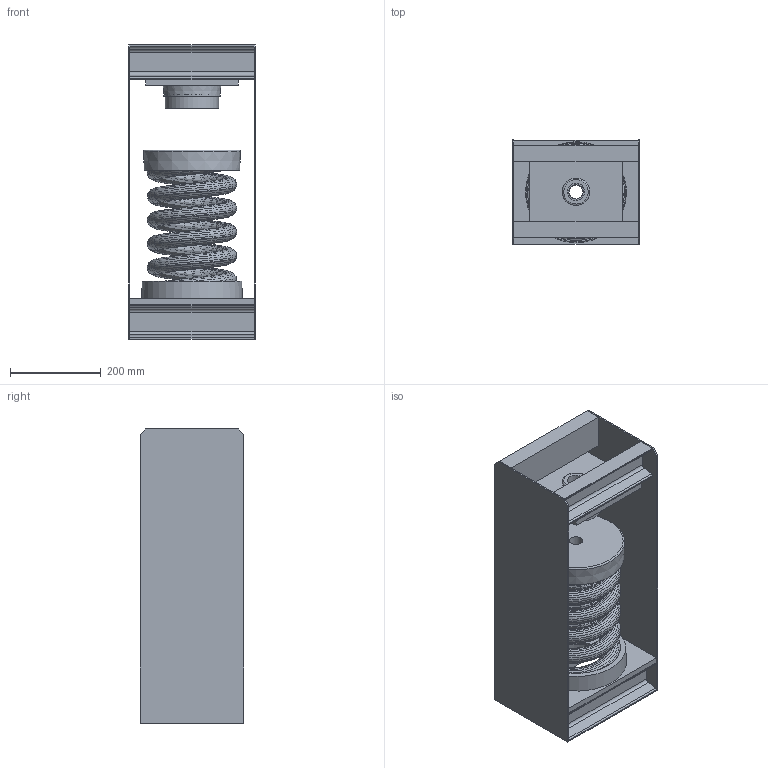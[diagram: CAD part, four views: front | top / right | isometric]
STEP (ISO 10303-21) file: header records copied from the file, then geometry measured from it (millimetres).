
FILE_DESCRIPTION(/* description */ (''),/* implementation_level */ '2;1');
FILE_NAME(/* name */ 'C:\001_Work\Designs\HANGER BOXES\30N 100 SERIES\30N-139\30N-139.stp',/* time_stamp */ '2015-06-01T12:05:20-04:00',/* author */ ('rramoutar'),/* organization */ ('Mason Industries Inc.'),/* preprocessor_version */ 'ST-DEVELOPER v15.2',/* originating_system */ 'Autodesk Inventor 2014',/* authorisation */ '');
FILE_SCHEMA (('AUTOMOTIVE_DESIGN { 1 0 10303 214 3 1 1 }'));
Products named in the file (1): 30N-139
Bounding box: 279.4 x 228.6 x 647.7 mm (x, y, z)
Volume: 4729328.3 mm3; surface area: 2139701.3 mm2
Topology: 15 solids, 15 shells, 765 faces, 1608 edges, 885 vertices
Faces by surface type: bspline 540, plane 166, cylinder 42, cone 15, torus 2
Full cylindrical faces by diameter (mm): 30.162 x1, 31.75 x1, 38.1 x2, 47.625 x4, 60.325 x1, 107.95 x2, 117.475 x1, 122.237 x2, 127 x1, 131.762 x1, 133.35 x2, 136.525 x2, 195.262 x1, 200.025 x2, 201.612 x1
Entity records: 42382 total; most frequent: CARTESIAN_POINT 29526, ORIENTED_EDGE 3152, EDGE_CURVE 1576, B_SPLINE_CURVE_WITH_KNOTS 1092, DIRECTION 1006, VERTEX_POINT 882, EDGE_LOOP 824, STYLED_ITEM 780
